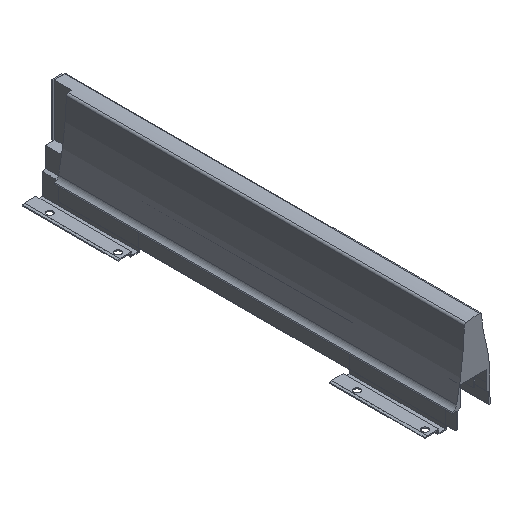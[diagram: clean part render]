
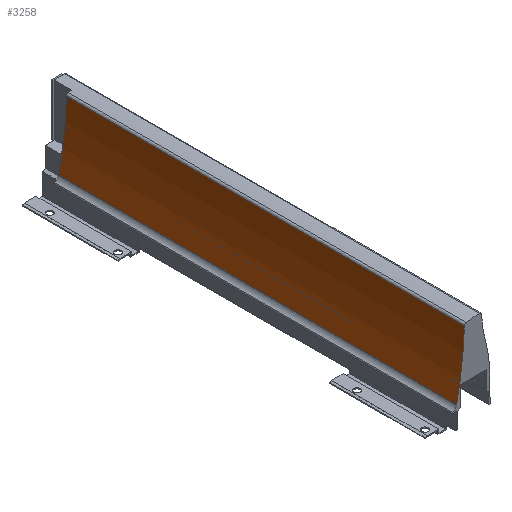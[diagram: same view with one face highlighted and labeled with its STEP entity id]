
A CAD part, isometric view. The second image highlights one B-rep face of the part: STEP entity #3258.
In plain terms, the highlighted cylindrical face has radius 350 mm (diameter 700 mm), a partial arc.
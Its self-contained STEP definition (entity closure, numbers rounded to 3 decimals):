
#39 = DIRECTION ( 'NONE',  ( 1., 0., 0. ) ) ;
#40 = DIRECTION ( 'NONE',  ( 0., -1., 0. ) ) ;
#41 = CARTESIAN_POINT ( 'NONE',  ( -369.736, 390., 58.528 ) ) ;
#405 = EDGE_CURVE ( 'NONE', #597, #581, #2404, .T. ) ;
#458 = VERTEX_POINT ( 'NONE', #792 ) ;
#459 = VERTEX_POINT ( 'NONE', #793 ) ;
#581 = VERTEX_POINT ( 'NONE', #915 ) ;
#597 = VERTEX_POINT ( 'NONE', #931 ) ;
#709 = CARTESIAN_POINT ( 'NONE',  ( -369.736, 373.8, 58.528 ) ) ;
#711 = DIRECTION ( 'NONE',  ( 0., -1., 0. ) ) ;
#712 = DIRECTION ( 'NONE',  ( -1., 0., 0. ) ) ;
#792 = CARTESIAN_POINT ( 'NONE',  ( -27.279, 0., -13.745 ) ) ;
#793 = CARTESIAN_POINT ( 'NONE',  ( -19.93, 0., 46.864 ) ) ;
#915 = CARTESIAN_POINT ( 'NONE',  ( -19.93, 373.8, 46.864 ) ) ;
#931 = CARTESIAN_POINT ( 'NONE',  ( -27.279, 373.8, -13.745 ) ) ;
#1016 = CARTESIAN_POINT ( 'NONE',  ( -369.736, 0., 58.528 ) ) ;
#1017 = DIRECTION ( 'NONE',  ( 0., -1., 0. ) ) ;
#1018 = DIRECTION ( 'NONE',  ( -1., 0., 0. ) ) ;
#1102 = CARTESIAN_POINT ( 'NONE',  ( -19.93, 390., 46.864 ) ) ;
#1103 = DIRECTION ( 'NONE',  ( 0., -1., 0. ) ) ;
#1196 = CARTESIAN_POINT ( 'NONE',  ( -27.279, 390., -13.745 ) ) ;
#1197 = DIRECTION ( 'NONE',  ( 0., -1., 0. ) ) ;
#1477 = EDGE_CURVE ( 'NONE', #458, #459, #2550, .T. ) ;
#1541 = EDGE_CURVE ( 'NONE', #581, #459, #2636, .T. ) ;
#1592 = AXIS2_PLACEMENT_3D ( 'NONE', #709, #711, #712 ) ;
#1615 = EDGE_CURVE ( 'NONE', #597, #458, #2722, .T. ) ;
#1630 = AXIS2_PLACEMENT_3D ( 'NONE', #1016, #1017, #1018 ) ;
#1846 = AXIS2_PLACEMENT_3D ( 'NONE', #41, #40, #39 ) ;
#2404 = CIRCLE ( 'NONE', #1592, 350. ) ;
#2550 = CIRCLE ( 'NONE', #1630, 350. ) ;
#2636 = LINE ( 'NONE', #1102, #2637 ) ;
#2637 = VECTOR ( 'NONE', #1103, 1000. ) ;
#2722 = LINE ( 'NONE', #1196, #2723 ) ;
#2723 = VECTOR ( 'NONE', #1197, 1000. ) ;
#3007 = FACE_OUTER_BOUND ( 'NONE', #3142, .T. ) ;
#3009 = CYLINDRICAL_SURFACE ( 'NONE', #1846, 350. ) ;
#3142 = EDGE_LOOP ( 'NONE', ( #3402, #3403, #3404, #3405 ) ) ;
#3258 = ADVANCED_FACE ( 'NONE', ( #3007 ), #3009, .F. ) ;
#3402 = ORIENTED_EDGE ( 'NONE', *, *, #405, .F. ) ;
#3403 = ORIENTED_EDGE ( 'NONE', *, *, #1615, .T. ) ;
#3404 = ORIENTED_EDGE ( 'NONE', *, *, #1477, .T. ) ;
#3405 = ORIENTED_EDGE ( 'NONE', *, *, #1541, .F. ) ;
